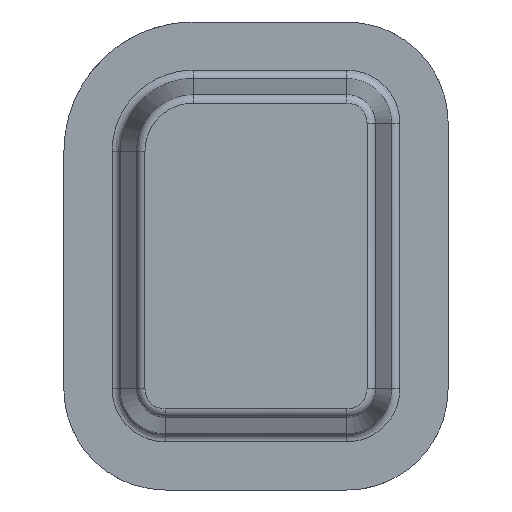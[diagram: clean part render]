
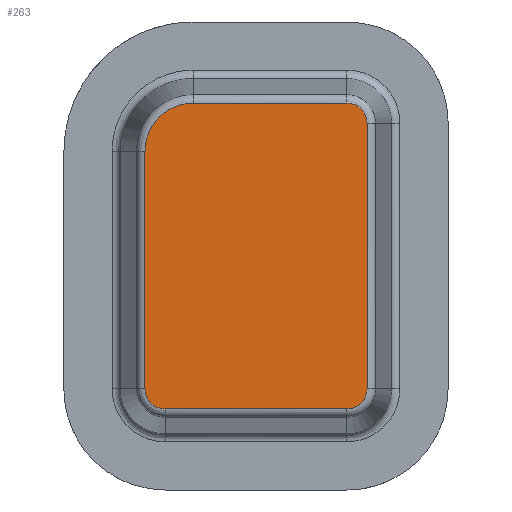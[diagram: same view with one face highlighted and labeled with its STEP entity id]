
A CAD part, front view. The second image highlights one B-rep face of the part: STEP entity #263.
In plain terms, the highlighted planar face has unit normal (0, -1, 0).
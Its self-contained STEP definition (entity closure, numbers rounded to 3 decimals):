
#144=CARTESIAN_POINT('Axis2P3D Location',(43.58,0.,56.42)) ;
#149=CARTESIAN_POINT('Line Origine',(2.749,0.,52.5)) ;
#153=CARTESIAN_POINT('Vertex',(2.749,0.,95.)) ;
#155=CARTESIAN_POINT('Vertex',(2.749,0.,10.)) ;
#159=CARTESIAN_POINT('Control Point',(2.749,0.,10.)) ;
#160=CARTESIAN_POINT('Control Point',(2.749,0.,9.039)) ;
#161=CARTESIAN_POINT('Control Point',(2.908,0.,8.077)) ;
#162=CARTESIAN_POINT('Control Point',(3.227,0.,7.153)) ;
#163=CARTESIAN_POINT('Control Point',(4.157,0.,5.443)) ;
#164=CARTESIAN_POINT('Control Point',(5.588,0.,4.125)) ;
#165=CARTESIAN_POINT('Control Point',(6.408,0.,3.59)) ;
#166=CARTESIAN_POINT('Control Point',(7.598,0.,3.072)) ;
#167=CARTESIAN_POINT('Control Point',(8.859,0.,2.829)) ;
#168=CARTESIAN_POINT('Control Point',(9.178,0.,2.785)) ;
#169=CARTESIAN_POINT('Control Point',(9.534,0.,2.756)) ;
#170=CARTESIAN_POINT('Control Point',(9.891,0.,2.75)) ;
#171=CARTESIAN_POINT('Control Point',(9.927,0.,2.749)) ;
#172=CARTESIAN_POINT('Control Point',(9.964,0.,2.749)) ;
#173=CARTESIAN_POINT('Control Point',(10.,0.,2.749)) ;
#174=CARTESIAN_POINT('Vertex',(10.,0.,2.749)) ;
#177=CARTESIAN_POINT('Line Origine',(42.5,0.,2.749)) ;
#181=CARTESIAN_POINT('Vertex',(75.,0.,2.749)) ;
#185=CARTESIAN_POINT('Control Point',(75.,0.,2.749)) ;
#186=CARTESIAN_POINT('Control Point',(75.961,0.,2.749)) ;
#187=CARTESIAN_POINT('Control Point',(76.923,0.,2.908)) ;
#188=CARTESIAN_POINT('Control Point',(77.847,0.,3.227)) ;
#189=CARTESIAN_POINT('Control Point',(79.557,0.,4.157)) ;
#190=CARTESIAN_POINT('Control Point',(80.875,0.,5.588)) ;
#191=CARTESIAN_POINT('Control Point',(81.41,0.,6.408)) ;
#192=CARTESIAN_POINT('Control Point',(81.928,0.,7.598)) ;
#193=CARTESIAN_POINT('Control Point',(82.171,0.,8.859)) ;
#194=CARTESIAN_POINT('Control Point',(82.215,0.,9.178)) ;
#195=CARTESIAN_POINT('Control Point',(82.244,0.,9.534)) ;
#196=CARTESIAN_POINT('Control Point',(82.25,0.,9.891)) ;
#197=CARTESIAN_POINT('Control Point',(82.251,0.,9.927)) ;
#198=CARTESIAN_POINT('Control Point',(82.251,0.,9.964)) ;
#199=CARTESIAN_POINT('Control Point',(82.251,0.,10.)) ;
#200=CARTESIAN_POINT('Vertex',(82.251,0.,10.)) ;
#203=CARTESIAN_POINT('Line Origine',(82.251,0.,57.5)) ;
#207=CARTESIAN_POINT('Vertex',(82.251,0.,105.)) ;
#211=CARTESIAN_POINT('Control Point',(82.251,0.,105.)) ;
#212=CARTESIAN_POINT('Control Point',(82.251,0.,105.961)) ;
#213=CARTESIAN_POINT('Control Point',(82.092,0.,106.923)) ;
#214=CARTESIAN_POINT('Control Point',(81.773,0.,107.847)) ;
#215=CARTESIAN_POINT('Control Point',(80.843,0.,109.557)) ;
#216=CARTESIAN_POINT('Control Point',(79.412,0.,110.875)) ;
#217=CARTESIAN_POINT('Control Point',(78.592,0.,111.41)) ;
#218=CARTESIAN_POINT('Control Point',(77.402,0.,111.928)) ;
#219=CARTESIAN_POINT('Control Point',(76.141,0.,112.171)) ;
#220=CARTESIAN_POINT('Control Point',(75.822,0.,112.215)) ;
#221=CARTESIAN_POINT('Control Point',(75.466,0.,112.244)) ;
#222=CARTESIAN_POINT('Control Point',(75.109,0.,112.25)) ;
#223=CARTESIAN_POINT('Control Point',(75.073,0.,112.251)) ;
#224=CARTESIAN_POINT('Control Point',(75.036,0.,112.251)) ;
#225=CARTESIAN_POINT('Control Point',(75.,0.,112.251)) ;
#226=CARTESIAN_POINT('Vertex',(75.,0.,112.251)) ;
#229=CARTESIAN_POINT('Line Origine',(47.5,0.,112.251)) ;
#233=CARTESIAN_POINT('Vertex',(20.,0.,112.251)) ;
#237=CARTESIAN_POINT('Control Point',(20.,0.,112.251)) ;
#238=CARTESIAN_POINT('Control Point',(18.077,0.,112.251)) ;
#239=CARTESIAN_POINT('Control Point',(16.154,0.,111.983)) ;
#240=CARTESIAN_POINT('Control Point',(14.282,0.,111.447)) ;
#241=CARTESIAN_POINT('Control Point',(10.736,0.,109.869)) ;
#242=CARTESIAN_POINT('Control Point',(7.758,0.,107.383)) ;
#243=CARTESIAN_POINT('Control Point',(6.451,0.,105.938)) ;
#244=CARTESIAN_POINT('Control Point',(4.493,0.,103.045)) ;
#245=CARTESIAN_POINT('Control Point',(3.313,0.,99.768)) ;
#246=CARTESIAN_POINT('Control Point',(2.954,0.,98.259)) ;
#247=CARTESIAN_POINT('Control Point',(2.762,0.,96.685)) ;
#248=CARTESIAN_POINT('Control Point',(2.749,0.,95.109)) ;
#249=CARTESIAN_POINT('Control Point',(2.749,0.,95.073)) ;
#250=CARTESIAN_POINT('Control Point',(2.749,0.,95.036)) ;
#251=CARTESIAN_POINT('Control Point',(2.749,0.,95.)) ;
#145=DIRECTION('Axis2P3D Direction',(0.,-1.,0.)) ;
#146=DIRECTION('Axis2P3D XDirection',(0.092,0.,0.996)) ;
#150=DIRECTION('Vector Direction',(0.,0.,1.)) ;
#178=DIRECTION('Vector Direction',(1.,0.,0.)) ;
#204=DIRECTION('Vector Direction',(0.,0.,1.)) ;
#230=DIRECTION('Vector Direction',(-1.,0.,0.)) ;
#147=AXIS2_PLACEMENT_3D('Plane Axis2P3D',#144,#145,#146) ;
#254=ORIENTED_EDGE('',*,*,#157,.T.) ;
#255=ORIENTED_EDGE('',*,*,#176,.T.) ;
#256=ORIENTED_EDGE('',*,*,#183,.T.) ;
#257=ORIENTED_EDGE('',*,*,#202,.T.) ;
#258=ORIENTED_EDGE('',*,*,#209,.T.) ;
#259=ORIENTED_EDGE('',*,*,#228,.T.) ;
#260=ORIENTED_EDGE('',*,*,#235,.T.) ;
#261=ORIENTED_EDGE('',*,*,#252,.T.) ;
#151=VECTOR('Line Direction',#150,1.) ;
#179=VECTOR('Line Direction',#178,1.) ;
#205=VECTOR('Line Direction',#204,1.) ;
#231=VECTOR('Line Direction',#230,1.) ;
#263=ADVANCED_FACE('base',(#262),#148,.T.) ;
#158=B_SPLINE_CURVE_WITH_KNOTS('',5,(#159,#160,#161,#162,#163,#164,#165,#166,#167,#168,#169,#170,#171,#172,#173),.UNSPECIFIED.,.F.,.U.,(6,3,3,3,6),(28.407,38.57,48.738,52.127,52.512),.UNSPECIFIED.) ;
#184=B_SPLINE_CURVE_WITH_KNOTS('',5,(#185,#186,#187,#188,#189,#190,#191,#192,#193,#194,#195,#196,#197,#198,#199),.UNSPECIFIED.,.F.,.U.,(6,3,3,3,6),(28.407,38.57,48.738,52.127,52.512),.UNSPECIFIED.) ;
#210=B_SPLINE_CURVE_WITH_KNOTS('',5,(#211,#212,#213,#214,#215,#216,#217,#218,#219,#220,#221,#222,#223,#224,#225),.UNSPECIFIED.,.F.,.U.,(6,3,3,3,6),(28.406,38.569,48.738,52.127,52.511),.UNSPECIFIED.) ;
#236=B_SPLINE_CURVE_WITH_KNOTS('',5,(#237,#238,#239,#240,#241,#242,#243,#244,#245,#246,#247,#248,#249,#250,#251),.UNSPECIFIED.,.F.,.U.,(6,3,3,3,6),(40.438,56.619,72.821,85.773,86.079),.UNSPECIFIED.) ;
#157=EDGE_CURVE('',#154,#156,#152,.F.) ;
#176=EDGE_CURVE('',#156,#175,#158,.T.) ;
#183=EDGE_CURVE('',#175,#182,#180,.T.) ;
#202=EDGE_CURVE('',#182,#201,#184,.T.) ;
#209=EDGE_CURVE('',#201,#208,#206,.T.) ;
#228=EDGE_CURVE('',#208,#227,#210,.T.) ;
#235=EDGE_CURVE('',#227,#234,#232,.T.) ;
#252=EDGE_CURVE('',#234,#154,#236,.T.) ;
#253=EDGE_LOOP('',(#254,#255,#256,#257,#258,#259,#260,#261)) ;
#262=FACE_OUTER_BOUND('',#253,.T.) ;
#152=LINE('Line',#149,#151) ;
#180=LINE('Line',#177,#179) ;
#206=LINE('Line',#203,#205) ;
#232=LINE('Line',#229,#231) ;
#148=PLANE('',#147) ;
#154=VERTEX_POINT('',#153) ;
#156=VERTEX_POINT('',#155) ;
#175=VERTEX_POINT('',#174) ;
#182=VERTEX_POINT('',#181) ;
#201=VERTEX_POINT('',#200) ;
#208=VERTEX_POINT('',#207) ;
#227=VERTEX_POINT('',#226) ;
#234=VERTEX_POINT('',#233) ;
